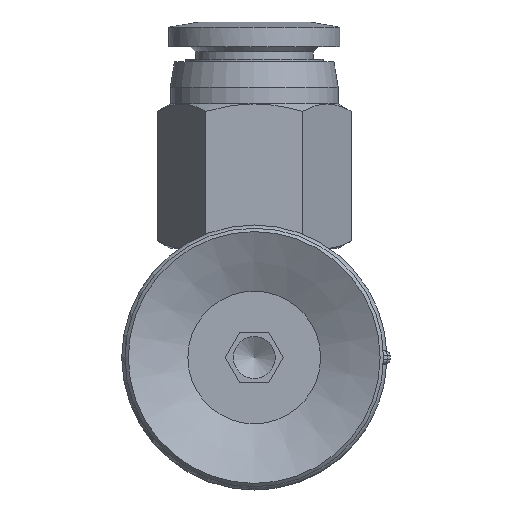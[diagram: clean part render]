
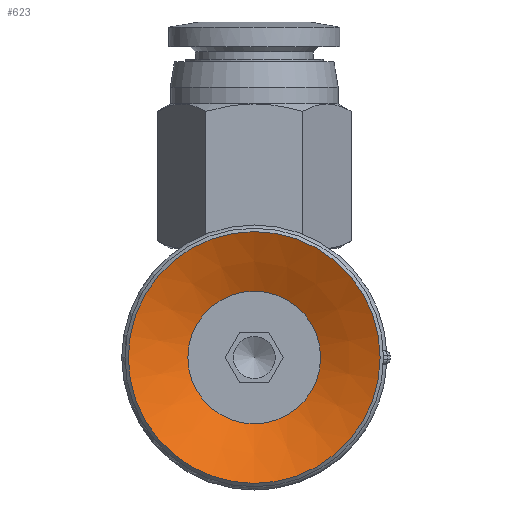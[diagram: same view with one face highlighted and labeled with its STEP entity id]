
A CAD part, front view. The second image highlights one B-rep face of the part: STEP entity #623.
In plain terms, the highlighted conical face has half-angle 64 degrees and reference radius 3.95 mm.
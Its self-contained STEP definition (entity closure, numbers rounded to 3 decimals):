
#623=ADVANCED_FACE('',(#965,#966),#967,.F.);
#965=FACE_BOUND('',#1463,.T.);
#966=FACE_OUTER_BOUND('',#1464,.T.);
#967=CONICAL_SURFACE('',#1465,3.95,1.117);
#1463=EDGE_LOOP('',(#2712));
#1464=EDGE_LOOP('',(#2713));
#1465=AXIS2_PLACEMENT_3D('',#2714,#2715,#2716);
#2712=ORIENTED_EDGE('',*,*,#3423,.F.);
#2713=ORIENTED_EDGE('',*,*,#3424,.T.);
#2714=CARTESIAN_POINT('',(0.0,-29.404,-47.168));
#2715=DIRECTION('',(-0.0,0.,1.0));
#2716=DIRECTION('',(0.0,-1.0,0.));
#3423=EDGE_CURVE('',#3930,#3930,#3931,.T.);
#3424=EDGE_CURVE('',#3932,#3932,#3933,.T.);
#3930=VERTEX_POINT('',#5124);
#3931=CIRCLE('',#5125,3.95);
#3932=VERTEX_POINT('',#5126);
#3933=CIRCLE('',#5127,7.5);
#5124=CARTESIAN_POINT('',(0.0,-33.354,-47.168));
#5125=AXIS2_PLACEMENT_3D('',#5997,#5998,#5999);
#5126=CARTESIAN_POINT('',(0.0,-36.904,-45.437));
#5127=AXIS2_PLACEMENT_3D('',#6000,#6001,#6002);
#5997=CARTESIAN_POINT('',(0.0,-29.404,-47.168));
#5998=DIRECTION('',(0.0,0.,1.0));
#5999=DIRECTION('',(0.0,-1.0,0.));
#6000=CARTESIAN_POINT('',(0.0,-29.404,-45.437));
#6001=DIRECTION('',(0.0,0.,1.0));
#6002=DIRECTION('',(0.0,-1.0,0.));
